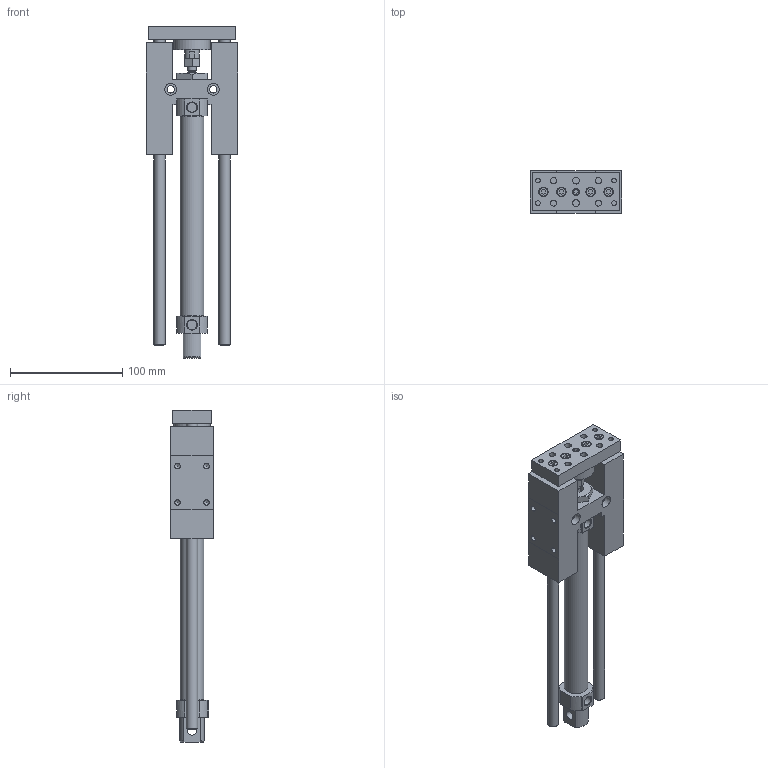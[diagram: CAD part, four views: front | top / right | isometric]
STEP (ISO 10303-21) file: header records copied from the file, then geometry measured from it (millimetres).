
FILE_DESCRIPTION((''),'2;1');
FILE_NAME('I:\3D電子目錄\氣缸\GHB(U)\GHB(U)\GHB(U)20\GHB(U)20x150.stp','2007-10-22T16:14:29',('Administrator'),(''),'Autodesk Inventor 11','Autodesk Inventor 11','');
FILE_SCHEMA(('AUTOMOTIVE_DESIGN { 1 0 10303 214 1 1 1 1 }'));
Length unit declared in the file: millimetre
Products named in the file (1): GHB(U)20
Bounding box: 82 x 38 x 296 mm (x, y, z)
Volume: 356542.8 mm3; surface area: 75493.4 mm2
Topology: 1 solids, 1 shells, 241 faces, 563 edges, 363 vertices
Faces by surface type: plane 132, bspline 40, cylinder 38, cone 31
Full cylindrical faces by diameter (mm): 4.917 x4, 5 x1, 6 x3, 6.6 x1, 7.5 x4, 8 x3, 8.5 x6, 10 x2, 13 x2, 21.2 x1, 33 x1
Entity records: 6788 total; most frequent: CARTESIAN_POINT 1686, DIRECTION 1006, ORIENTED_EDGE 964, EDGE_CURVE 482, EDGE_LOOP 372, AXIS2_PLACEMENT_3D 366, VERTEX_POINT 348, VECTOR 274
